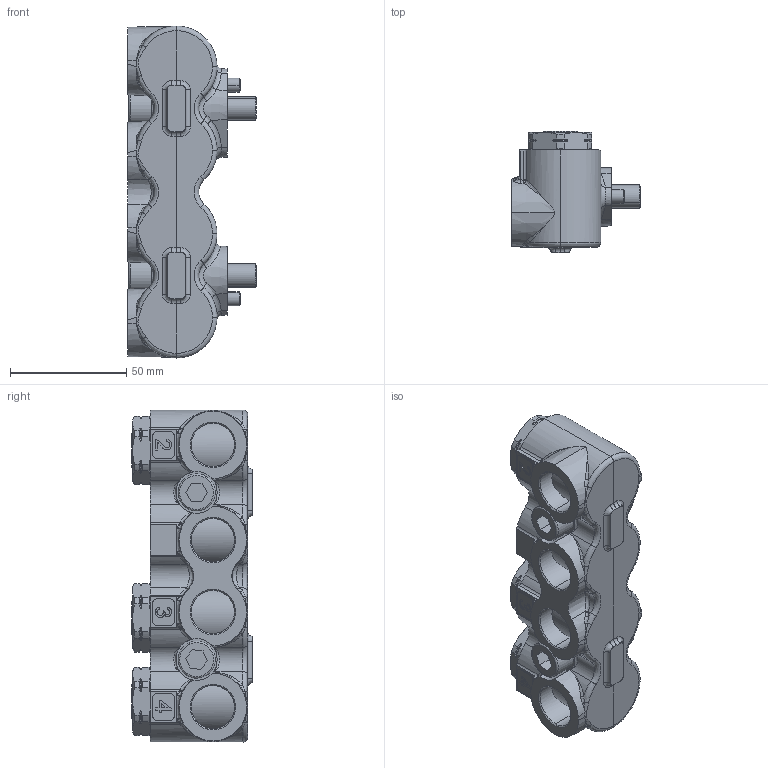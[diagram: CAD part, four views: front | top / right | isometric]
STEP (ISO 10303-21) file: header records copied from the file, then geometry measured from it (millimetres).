
FILE_DESCRIPTION (( 'STEP AP214' ), '1' );
FILE_NAME ('P7318-3B.STEP', '2023-05-25T09:09:14', ( '' ), ( '' ), 'SwSTEP 2.0', 'SolidWorks 2021', '' );
FILE_SCHEMA (( 'AUTOMOTIVE_DESIGN' ));
Length unit declared in the file: millimetre
Products named in the file (1): P7318-3B
Bounding box: 55.5 x 52 x 143 mm (x, y, z)
Volume: 213999.1 mm3; surface area: 51306 mm2
Topology: 20 solids, 20 shells, 835 faces, 2052 edges, 1283 vertices
Faces by surface type: cylinder 222, cone 177, plane 175, bspline 167, torus 94
Entity records: 43431 total; most frequent: CARTESIAN_POINT 15741, ORIENTED_EDGE 4096, DIRECTION 3495, EDGE_CURVE 2048, AXIS2_PLACEMENT_3D 1445, VERTEX_POINT 1283, EDGE_LOOP 881, UNCERTAINTY_MEASURE_WITH_UNIT 857
